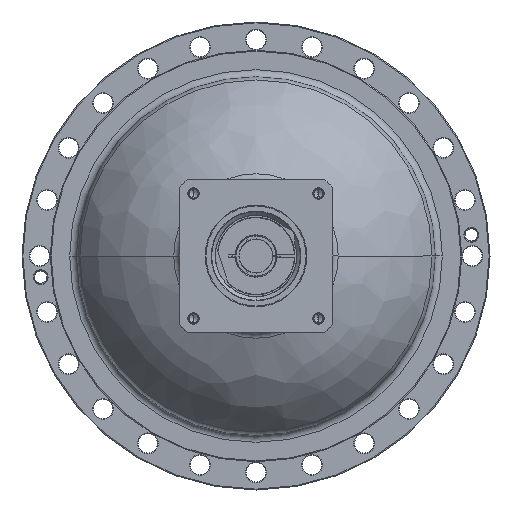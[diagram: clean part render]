
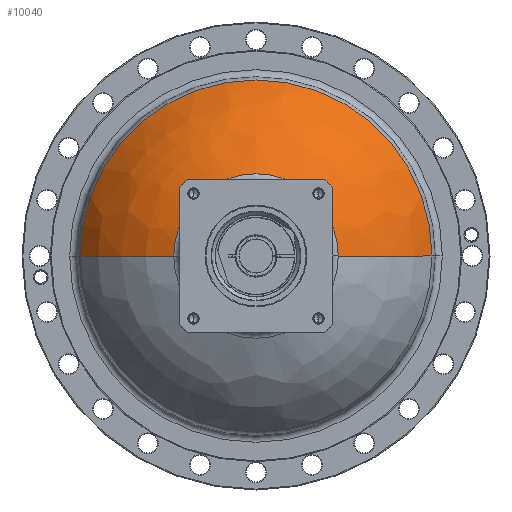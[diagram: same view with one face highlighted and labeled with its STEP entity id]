
A CAD part, left-side view. The second image highlights one B-rep face of the part: STEP entity #10040.
In plain terms, the highlighted free-form (B-spline) face has degree [3, 3] with [7, 4] control points.
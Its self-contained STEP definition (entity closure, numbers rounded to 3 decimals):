
#9548=CARTESIAN_POINT('',(-11.967,0.,0.));
#9549=DIRECTION('',(-1.,0.,0.));
#9550=DIRECTION('',(0.,-1.,0.));
#9551=AXIS2_PLACEMENT_3D('',#9548,#9549,#9550);
#9553=CARTESIAN_POINT('',(-96.954,0.,0.));
#9554=DIRECTION('',(1.,0.,0.));
#9555=DIRECTION('',(0.,1.,0.));
#9556=AXIS2_PLACEMENT_3D('',#9553,#9554,#9555);
#9563=CARTESIAN_POINT('',(-201.319,28.716,0.));
#9564=DIRECTION('',(0.,0.,-1.));
#9565=DIRECTION('',(0.522,0.853,0.));
#9566=AXIS2_PLACEMENT_3D('',#9563,#9564,#9565);
#9573=CARTESIAN_POINT('',(-201.319,-28.716,0.));
#9574=DIRECTION('',(0.,0.,1.));
#9575=DIRECTION('',(0.522,-0.853,0.));
#9576=AXIS2_PLACEMENT_3D('',#9573,#9574,#9575);
#9810=CARTESIAN_POINT('',(-96.954,199.326,
0.));
#9811=CARTESIAN_POINT('',(-96.954,-199.326,0.));
#9812=VERTEX_POINT('',#9810);
#9813=VERTEX_POINT('',#9811);
#9822=CARTESIAN_POINT('',(-11.967,93.103,
0.));
#9823=CARTESIAN_POINT('',(-11.967,-93.103,
0.));
#9824=VERTEX_POINT('',#9822);
#9825=VERTEX_POINT('',#9823);
#10002=CARTESIAN_POINT('',(-99.333,200.362,
-12.606));
#10003=CARTESIAN_POINT('',(-57.014,175.326,
-11.031));
#10004=CARTESIAN_POINT('',(-26.281,136.988,
-8.619));
#10005=CARTESIAN_POINT('',(-11.091,90.29,
-5.681));
#10006=CARTESIAN_POINT('',(-99.333,208.12,
110.697));
#10007=CARTESIAN_POINT('',(-57.014,182.114,
96.865));
#10008=CARTESIAN_POINT('',(-26.281,142.292,
75.684));
#10009=CARTESIAN_POINT('',(-11.091,93.785,
49.884));
#10010=CARTESIAN_POINT('',(-99.333,123.547,
200.759));
#10011=CARTESIAN_POINT('',(-57.014,108.109,
175.673));
#10012=CARTESIAN_POINT('',(-26.281,84.469,
137.259));
#10013=CARTESIAN_POINT('',(-11.091,55.674,
90.468));
#10014=CARTESIAN_POINT('',(-99.333,0.,
200.759));
#10015=CARTESIAN_POINT('',(-57.014,0.,
175.673));
#10016=CARTESIAN_POINT('',(-26.281,0.,
137.259));
#10017=CARTESIAN_POINT('',(-11.091,0.,
90.468));
#10018=CARTESIAN_POINT('',(-99.333,-123.547,
200.759));
#10019=CARTESIAN_POINT('',(-57.014,-108.109,
175.673));
#10020=CARTESIAN_POINT('',(-26.281,-84.469,
137.259));
#10021=CARTESIAN_POINT('',(-11.091,-55.674,
90.468));
#10022=CARTESIAN_POINT('',(-99.333,-208.12,
110.697));
#10023=CARTESIAN_POINT('',(-57.014,-182.114,
96.865));
#10024=CARTESIAN_POINT('',(-26.281,-142.292,
75.684));
#10025=CARTESIAN_POINT('',(-11.091,-93.785,
49.884));
#10026=CARTESIAN_POINT('',(-99.333,-200.362,
-12.606));
#10027=CARTESIAN_POINT('',(-57.014,-175.326,
-11.031));
#10028=CARTESIAN_POINT('',(-26.281,-136.988,
-8.619));
#10029=CARTESIAN_POINT('',(-11.091,-90.29,
-5.681));
#10030=(BOUNDED_SURFACE()B_SPLINE_SURFACE(3,3,((#10002,#10003,#10004,#10005),(
#10006,#10007,#10008,#10009),(#10010,#10011,#10012,#10013),(#10014,#10015,
#10016,#10017),(#10018,#10019,#10020,#10021),(#10022,#10023,#10024,#10025),(
#10026,#10027,#10028,#10029)),.UNSPECIFIED.,.F.,.F.,.F.)B_SPLINE_SURFACE_WITH_KNOTS((4,3,4),(4,4),(0.,1.,2.),(0.,1.),.UNSPECIFIED.)GEOMETRIC_REPRESENTATION_ITEM()RATIONAL_B_SPLINE_SURFACE(((1.227,1.174,
1.174,1.227),(0.969,0.927,
0.927,0.969),(0.969,0.927,
0.927,0.969),(1.227,1.174,
1.174,1.227),(0.969,0.927,
0.927,0.969),(0.969,0.927,
0.927,0.969),(1.227,1.174,
1.174,1.227)))REPRESENTATION_ITEM('')SURFACE());
#10031=ORIENTED_EDGE('',*,*,#9996,.F.);
#10033=ORIENTED_EDGE('',*,*,#10032,.F.);
#10035=ORIENTED_EDGE('',*,*,#10034,.F.);
#10037=ORIENTED_EDGE('',*,*,#10036,.T.);
#10038=EDGE_LOOP('',(#10031,#10033,#10035,#10037));
#10039=FACE_OUTER_BOUND('',#10038,.F.);
#10040=ADVANCED_FACE('',(#10039),#10030,.T.);
#9552=CIRCLE('',#9551,93.103);
#9557=CIRCLE('',#9556,199.326);
#9567=CIRCLE('',#9566,200.);
#9577=CIRCLE('',#9576,200.);
#9996=EDGE_CURVE('',#9825,#9824,#9552,.T.);
#10032=EDGE_CURVE('',#9813,#9825,#9577,.T.);
#10034=EDGE_CURVE('',#9812,#9813,#9557,.T.);
#10036=EDGE_CURVE('',#9812,#9824,#9567,.T.);
